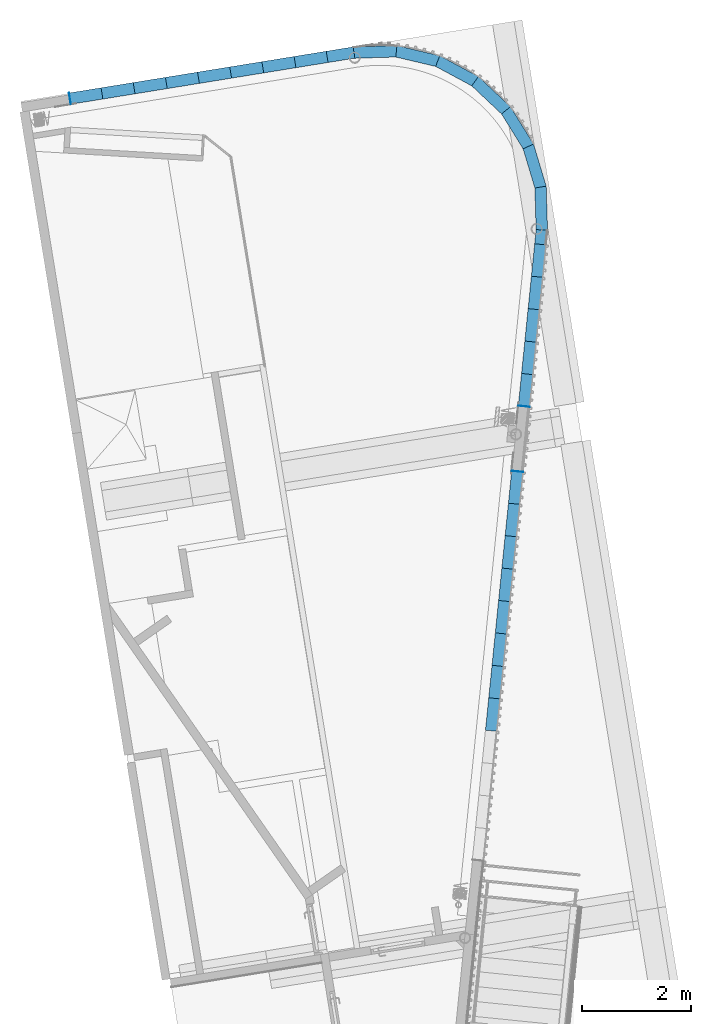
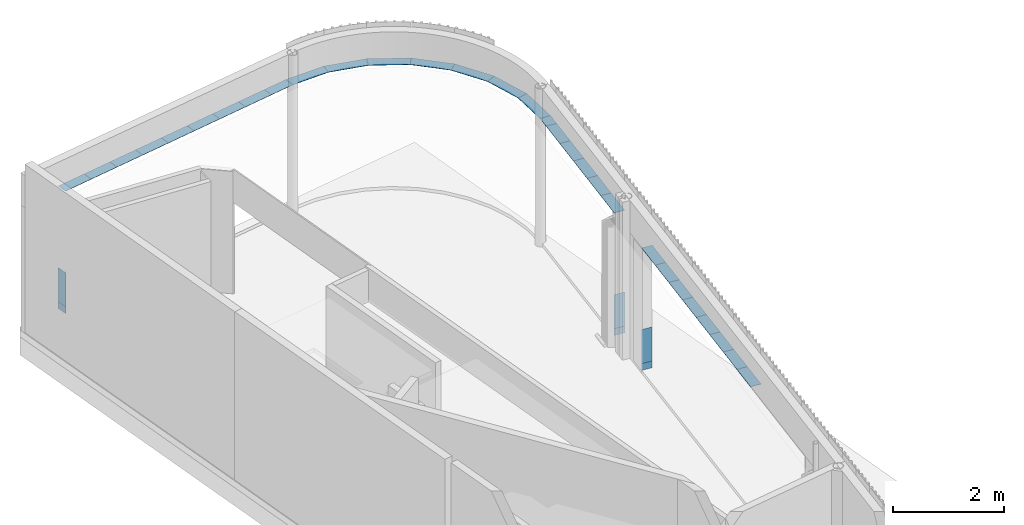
# One storey, part 5 of 23: 36 members, 3 elements without a shape of their own.
"""IFC2X3 building model written with IfcOpenShell, lengths in millimetres."""

from ifc_helpers import new_model, entity, si_unit, converted_unit, derived_unit, direction, frame, frame_2d, origin, origin_with_axes, origin_2d_with_axis, place, context, subcontext, project, spatial, polyline, rectangle, outline, extrude, source, transform, mapped, material, type_object, element, aggregate, save


model = new_model("IFC2X3")

# Units and contexts
plan_context = context("Plan", 3, precision=1e-05, world=origin_with_axes())
model_context = context("Model", 3, precision=0.01, world=origin(), true_north=direction((6.12323399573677e-17, 1.0)))
body_context = subcontext(model_context, "Body", "Model", "MODEL_VIEW")
ifc_project = project(units=[converted_unit("PLANEANGLEUNIT", "DEGREE", entity("IfcPositiveLengthMeasure", 0.0174532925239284), si_unit("PLANEANGLEUNIT", "RADIAN"), dimensions=[0, 0, 0, 0, 0, 0, 0]), si_unit("AREAUNIT", "SQUARE_METRE"), si_unit("LENGTHUNIT", "METRE", prefix="MILLI"), si_unit("MASSUNIT", "GRAM", prefix="KILO"), si_unit("POWERUNIT", "WATT"), si_unit("PRESSUREUNIT", "PASCAL", prefix="KILO"), si_unit("FORCEUNIT", "NEWTON", prefix="KILO"), si_unit("ELECTRICVOLTAGEUNIT", "VOLT"), si_unit("ELECTRICCURRENTUNIT", "AMPERE"), si_unit("THERMODYNAMICTEMPERATUREUNIT", "DEGREE_CELSIUS"), si_unit("TIMEUNIT", "SECOND"), si_unit("VOLUMEUNIT", "CUBIC_METRE"), derived_unit("LINEARVELOCITYUNIT", [(si_unit("LENGTHUNIT", "METRE"), 1), (si_unit("TIMEUNIT", "SECOND"), -1)]), derived_unit("VOLUMETRICFLOWRATEUNIT", [(si_unit("VOLUMEUNIT", "CUBIC_METRE"), 1), (si_unit("TIMEUNIT", "SECOND"), -1)]), derived_unit("THERMALTRANSMITTANCEUNIT", [(si_unit("POWERUNIT", "WATT"), 1), (si_unit("THERMODYNAMICTEMPERATUREUNIT", "KELVIN"), -1), (si_unit("AREAUNIT", "SQUARE_METRE"), -1)]), derived_unit("SOUNDPRESSUREUNIT", [(si_unit("PRESSUREUNIT", "PASCAL"), 1)])], contexts=[model_context, plan_context])

# Site, building, storey
site_placement = place(None, frame((-0.00071070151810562, 0.00438415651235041, 0.0), z_axis=(0.0, 0.0, 1.0), x_axis=(-0.160236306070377, 0.987078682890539, 0.0)))
site = spatial("IfcSite", under=ifc_project, at=site_placement, Name="Default", CompositionType="ELEMENT")
building_placement = place(site_placement, origin_with_axes())
building = spatial("IfcBuilding", under=site, at=building_placement, Name="TOO", CompositionType="ELEMENT")
storey_placement = place(building_placement, frame((0.0, 0.0, 58999.9999999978), z_axis=(0.0, 0.0, 1.0), x_axis=(1.0, 0.0, 0.0)))
storey = spatial("IfcBuildingStorey", under=building, at=storey_placement, Name="Nivå F", CompositionType="ELEMENT", Elevation=58999.9999999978)

# Curtain wall, members
curtain_wall_type = type_object("IfcCurtainWallType", Name="Curtain Wall:Curtain Wall Standard (Bruk kun denne)", PredefinedType="NOTDEFINED")
curtain_wall_1_placement = place(storey_placement, frame((0.0, 0.0, -58999.9999999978), z_axis=(0.0, 0.0, 1.0), x_axis=(1.0, 0.0, 0.0)))
curtain_wall_1 = element("IfcCurtainWall", 1, at=curtain_wall_1_placement, inside=storey, type_object=curtain_wall_type, Name="Curtain Wall:Curtain Wall Standard (Bruk kun denne)", ObjectType="Curtain Wall:Curtain Wall Standard (Bruk kun denne)")
ifc_material = material(Name="A200 - Metall - Stål")
member_type_1 = type_object("IfcMemberType", Name="Rectangular Mullion:A248-M03 kantbeskyt. åpning 210 hovedpav -venstre", PredefinedType="MULLION", material=ifc_material)
shared_shape_1 = source(origin(), body_context, "Body", "SweptSolid", [
    extrude(rectangle(XDim=5.0, YDim=210.0, at=origin_2d_with_axis()), frame((2.5, 95.0, -750.0), z_axis=(0.0, 0.0, 1.0), x_axis=(-1.0, 0.0, 0.0)), (0.0, 0.0, 1.0), 750.000000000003),
])
member_1_placement = place(curtain_wall_1_placement, frame((787388.155021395, -501802.480498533, 59149.9999999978), z_axis=(0.0, 0.0, -1.0), x_axis=(0.0, -1.0, 0.0)))
member_1 = element("IfcMember", 2, at=member_1_placement, type_object=member_type_1, material=ifc_material, Name="Rectangular Mullion:A248-M03 kantbeskyt. åpning 210 hovedpav -venstre", ObjectType="Rectangular Mullion:A248-M03 kantbeskyt. åpning 210 hovedpav -venstre", context=body_context, shape_type="MappedRepresentation", body=[
    mapped(shared_shape_1, transform((0.0, 0.0, 0.0), scale=1.0)),
])
member_type_2 = type_object("IfcMemberType", Name="Rectangular Mullion:A248-M03 kantbeskyt. åpning 210 hovedpav -venstre", PredefinedType="MULLION", material=ifc_material)
shared_shape_2 = source(origin(), body_context, "Body", "SweptSolid", [
    extrude(rectangle(XDim=5.0, YDim=210.0, at=frame_2d((0.0, -1.4210854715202e-14), x_axis=(1.0, 0.0))), frame((2.5, 95.0, -150.0), z_axis=(0.0, 0.0, 1.0), x_axis=(-1.0, 0.0, 0.0)), (0.0, 0.0, 1.0), 150.000000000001),
])
member_2_placement = place(curtain_wall_1_placement, frame((787388.155021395, -501802.480498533, 58999.9999999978), z_axis=(0.0, 0.0, -1.0), x_axis=(0.0, -1.0, 0.0)))
member_2 = element("IfcMember", 3, at=member_2_placement, type_object=member_type_2, material=ifc_material, Name="Rectangular Mullion:A248-M03 kantbeskyt. åpning 210 hovedpav -venstre", ObjectType="Rectangular Mullion:A248-M03 kantbeskyt. åpning 210 hovedpav -venstre", context=body_context, shape_type="MappedRepresentation", body=[
    mapped(shared_shape_2, transform((0.0, 0.0, 0.0), scale=1.0)),
])
member_type_3 = type_object("IfcMemberType", Name="Rectangular Mullion:A248-M03 kantbeskyt. åpning 210 hovedpav", PredefinedType="MULLION", material=ifc_material)
shared_shape_3 = source(origin(), body_context, "Body", "SweptSolid", [
    extrude(rectangle(XDim=5.0, YDim=210.0, at=origin_2d_with_axis()), frame((0.0, 95.0, -595.0), z_axis=(0.0, 0.0, 1.0), x_axis=(-1.0, 0.0, 0.0)), (0.0, 0.0, 1.0), 594.999999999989),
])
member_3_placement = place(curtain_wall_1_placement, frame((787388.155021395, -502402.480498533, 61699.9999999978), z_axis=(0.0, -1.0, 0.0), x_axis=(0.0, 0.0, 1.0)))
member_3 = element("IfcMember", 4, at=member_3_placement, type_object=member_type_3, material=ifc_material, Name="Rectangular Mullion:A248-M03 kantbeskyt. åpning 210 hovedpav", ObjectType="Rectangular Mullion:A248-M03 kantbeskyt. åpning 210 hovedpav", context=body_context, shape_type="MappedRepresentation", body=[
    mapped(shared_shape_3, transform((0.0, 0.0, 0.0), scale=1.0)),
])
member_type_4 = type_object("IfcMemberType", Name="Rectangular Mullion:A248-M03 kantbeskyt. åpning 210 hovedpav", PredefinedType="MULLION", material=ifc_material)
shared_shape_4 = source(origin(), body_context, "Body", "SweptSolid", [
    extrude(rectangle(XDim=5.0, YDim=210.0, at=origin_2d_with_axis()), frame((0.0, 95.0, -600.0), z_axis=(0.0, 0.0, 1.0), x_axis=(-1.0, 0.0, 0.0)), (0.0, 0.0, 1.0), 600.000000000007),
])
member_4_placement = place(curtain_wall_1_placement, frame((787388.155021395, -503002.480498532, 61699.9999999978), z_axis=(0.0, -1.0, 0.0), x_axis=(0.0, 0.0, 1.0)))
member_4 = element("IfcMember", 5, at=member_4_placement, type_object=member_type_4, material=ifc_material, Name="Rectangular Mullion:A248-M03 kantbeskyt. åpning 210 hovedpav", ObjectType="Rectangular Mullion:A248-M03 kantbeskyt. åpning 210 hovedpav", context=body_context, shape_type="MappedRepresentation", body=[
    mapped(shared_shape_4, transform((0.0, 0.0, 0.0), scale=1.0)),
])
member_5_placement = place(curtain_wall_1_placement, frame((787388.155021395, -503602.480498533, 61699.9999999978), z_axis=(0.0, -1.0, 0.0), x_axis=(0.0, 0.0, 1.0)))
member_5 = element("IfcMember", 6, at=member_5_placement, type_object=member_type_4, material=ifc_material, Name="Rectangular Mullion:A248-M03 kantbeskyt. åpning 210 hovedpav", ObjectType="Rectangular Mullion:A248-M03 kantbeskyt. åpning 210 hovedpav", context=body_context, shape_type="MappedRepresentation", body=[
    mapped(shared_shape_4, transform((0.0, 0.0, 0.0), scale=1.0)),
])
member_6_placement = place(curtain_wall_1_placement, frame((787388.155021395, -504202.480498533, 61699.9999999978), z_axis=(0.0, -1.0, 0.0), x_axis=(0.0, 0.0, 1.0)))
member_6 = element("IfcMember", 7, at=member_6_placement, type_object=member_type_4, material=ifc_material, Name="Rectangular Mullion:A248-M03 kantbeskyt. åpning 210 hovedpav", ObjectType="Rectangular Mullion:A248-M03 kantbeskyt. åpning 210 hovedpav", context=body_context, shape_type="MappedRepresentation", body=[
    mapped(shared_shape_4, transform((0.0, 0.0, 0.0), scale=1.0)),
])
member_7_placement = place(curtain_wall_1_placement, frame((787388.155021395, -505402.480498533, 61699.9999999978), z_axis=(0.0, -1.0, 0.0), x_axis=(0.0, 0.0, 1.0)))
member_7 = element("IfcMember", 8, at=member_7_placement, type_object=member_type_4, material=ifc_material, Name="Rectangular Mullion:A248-M03 kantbeskyt. åpning 210 hovedpav", ObjectType="Rectangular Mullion:A248-M03 kantbeskyt. åpning 210 hovedpav", context=body_context, shape_type="MappedRepresentation", body=[
    mapped(shared_shape_4, transform((0.0, 0.0, 0.0), scale=1.0)),
])
member_8_placement = place(curtain_wall_1_placement, frame((787388.155021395, -506602.480498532, 61699.9999999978), z_axis=(0.0, -1.0, 0.0), x_axis=(0.0, 0.0, 1.0)))
member_8 = element("IfcMember", 9, at=member_8_placement, type_object=member_type_4, material=ifc_material, Name="Rectangular Mullion:A248-M03 kantbeskyt. åpning 210 hovedpav", ObjectType="Rectangular Mullion:A248-M03 kantbeskyt. åpning 210 hovedpav", context=body_context, shape_type="MappedRepresentation", body=[
    mapped(shared_shape_4, transform((0.0, 0.0, 0.0), scale=1.0)),
])
member_9_placement = place(curtain_wall_1_placement, frame((787388.155021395, -504802.480498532, 61699.9999999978), z_axis=(0.0, -1.0, 0.0), x_axis=(0.0, 0.0, 1.0)))
member_9 = element("IfcMember", 10, at=member_9_placement, type_object=member_type_4, material=ifc_material, Name="Rectangular Mullion:A248-M03 kantbeskyt. åpning 210 hovedpav", ObjectType="Rectangular Mullion:A248-M03 kantbeskyt. åpning 210 hovedpav", context=body_context, shape_type="MappedRepresentation", body=[
    mapped(shared_shape_4, transform((0.0, 0.0, 0.0), scale=1.0)),
])
member_10_placement = place(curtain_wall_1_placement, frame((787388.155021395, -506002.480498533, 61699.9999999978), z_axis=(0.0, -1.0, 0.0), x_axis=(0.0, 0.0, 1.0)))
member_10 = element("IfcMember", 11, at=member_10_placement, type_object=member_type_4, material=ifc_material, Name="Rectangular Mullion:A248-M03 kantbeskyt. åpning 210 hovedpav", ObjectType="Rectangular Mullion:A248-M03 kantbeskyt. åpning 210 hovedpav", context=body_context, shape_type="MappedRepresentation", body=[
    mapped(shared_shape_4, transform((0.0, 0.0, 0.0), scale=1.0)),
])
member_type_5 = type_object("IfcMemberType", Name="Rectangular Mullion:A248-M03 kantbeskyt. åpning 210 hovedpav", PredefinedType="MULLION", material=ifc_material)
shared_shape_5 = source(origin(), body_context, "Body", "SweptSolid", [
    extrude(rectangle(XDim=5.0, YDim=210.0, at=origin_2d_with_axis()), frame((0.0, 95.0, -499.999950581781), z_axis=(0.0, 0.0, 1.0), x_axis=(-1.0, 0.0, 0.0)), (0.0, 0.0, 1.0), 499.999950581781),
])
member_11_placement = place(curtain_wall_1_placement, frame((787388.155021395, -507102.480449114, 61699.9999999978), z_axis=(0.0, -1.0, 0.0), x_axis=(0.0, 0.0, 1.0)))
member_11 = element("IfcMember", 12, at=member_11_placement, type_object=member_type_5, material=ifc_material, Name="Rectangular Mullion:A248-M03 kantbeskyt. åpning 210 hovedpav", ObjectType="Rectangular Mullion:A248-M03 kantbeskyt. åpning 210 hovedpav", context=body_context, shape_type="MappedRepresentation", body=[
    mapped(shared_shape_5, transform((0.0, 0.0, 0.0), scale=1.0)),
])
aggregate(curtain_wall_1, [member_1, member_2, member_3, member_4, member_5, member_6, member_7, member_8, member_11, member_9, member_10])

curtain_wall_2_placement = place(storey_placement, frame((0.0, 0.0, -58999.9999999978), z_axis=(0.0, 0.0, 1.0), x_axis=(1.0, 0.0, 0.0)))
curtain_wall_2 = element("IfcCurtainWall", 13, at=curtain_wall_2_placement, inside=storey, type_object=curtain_wall_type, Name="Curtain Wall:Curtain Wall Standard (Bruk kun denne)", ObjectType="Curtain Wall:Curtain Wall Standard (Bruk kun denne)")
member_type_6 = type_object("IfcMemberType", Name="Rectangular Mullion:A248-M03 buet kantbeskyt. åpning 210 hovedpav", PredefinedType="MULLION", material=ifc_material)
shared_shape_6 = source(origin(), body_context, "Body", "SweptSolid", [
    extrude(outline(polyline([(-404.642458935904, -105.0), (404.642458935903, -105.0), (376.995434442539, 105.0), (-376.995434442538, 105.0), (-404.642458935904, -105.0)])), frame((-2.5, 95.0, -403.325933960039), z_axis=(1.0, 0.0, 0.0), x_axis=(0.0, 0.0, -1.0)), (0.0, 0.0, 1.0), 5.0),
])
member_12_placement = place(curtain_wall_2_placement, frame((786973.638141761, -508646.295602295, 61699.9999999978), z_axis=(-0.382683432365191, -0.923879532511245, 0.0), x_axis=(0.0, 0.0, 1.0)))
member_12 = element("IfcMember", 14, at=member_12_placement, type_object=member_type_6, material=ifc_material, Name="Rectangular Mullion:A248-M03 buet kantbeskyt. åpning 210 hovedpav", ObjectType="Rectangular Mullion:A248-M03 buet kantbeskyt. åpning 210 hovedpav", context=body_context, shape_type="MappedRepresentation", body=[
    mapped(shared_shape_6, transform((0.0, 0.0, 0.0), scale=1.0)),
])
member_13_placement = place(curtain_wall_2_placement, frame((785097.370493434, -510086.006405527, 61699.9999999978), z_axis=(-0.92387953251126, -0.382683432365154, 0.0), x_axis=(0.0, 0.0, 1.0)))
member_13 = element("IfcMember", 15, at=member_13_placement, type_object=member_type_6, material=ifc_material, Name="Rectangular Mullion:A248-M03 buet kantbeskyt. åpning 210 hovedpav", ObjectType="Rectangular Mullion:A248-M03 buet kantbeskyt. åpning 210 hovedpav", context=body_context, shape_type="MappedRepresentation", body=[
    mapped(shared_shape_6, transform((0.0, 0.0, 0.0), scale=1.0)),
])
member_14_placement = place(curtain_wall_2_placement, frame((785842.619644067, -509777.314099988, 61699.9999999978), z_axis=(-0.793353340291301, -0.608761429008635, 0.0), x_axis=(0.0, 0.0, 1.0)))
member_14 = element("IfcMember", 16, at=member_14_placement, type_object=member_type_6, material=ifc_material, Name="Rectangular Mullion:A248-M03 buet kantbeskyt. åpning 210 hovedpav", ObjectType="Rectangular Mullion:A248-M03 buet kantbeskyt. åpning 210 hovedpav", context=body_context, shape_type="MappedRepresentation", body=[
    mapped(shared_shape_6, transform((0.0, 0.0, 0.0), scale=1.0)),
])
member_15_placement = place(curtain_wall_2_placement, frame((786482.579597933, -509286.255556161, 61699.9999999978), z_axis=(-0.608761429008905, -0.793353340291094, 0.0), x_axis=(0.0, 0.0, 1.0)))
member_15 = element("IfcMember", 17, at=member_15_placement, type_object=member_type_6, material=ifc_material, Name="Rectangular Mullion:A248-M03 buet kantbeskyt. åpning 210 hovedpav", ObjectType="Rectangular Mullion:A248-M03 buet kantbeskyt. åpning 210 hovedpav", context=body_context, shape_type="MappedRepresentation", body=[
    mapped(shared_shape_6, transform((0.0, 0.0, 0.0), scale=1.0)),
])
member_type_7 = type_object("IfcMemberType", Name="Rectangular Mullion:A248-M03 buet kantbeskyt. åpning 210 hovedpav", PredefinedType="MULLION", material=ifc_material)
shared_shape_7 = source(origin(), body_context, "Body", "SweptSolid", [
    extrude(outline(polyline([(-410.895952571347, -105.0), (397.072440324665, -105.0), (397.072440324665, 105.0), (-383.248928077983, 105.0), (-410.895952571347, -105.0)])), frame((-2.5, 95.0, -409.579427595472), z_axis=(1.0, 0.0, 0.0), x_axis=(0.0, 0.0, -1.0)), (0.0, 0.0, 1.0), 5.0),
])
member_16_placement = place(curtain_wall_2_placement, frame((787282.3304473, -507901.046451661, 61699.9999999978), z_axis=(-0.130526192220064, -0.991444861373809, 0.0), x_axis=(0.0, 0.0, 1.0)))
member_16 = element("IfcMember", 18, at=member_16_placement, type_object=member_type_7, material=ifc_material, Name="Rectangular Mullion:A248-M03 buet kantbeskyt. åpning 210 hovedpav", ObjectType="Rectangular Mullion:A248-M03 buet kantbeskyt. åpning 210 hovedpav", context=body_context, shape_type="MappedRepresentation", body=[
    mapped(shared_shape_7, transform((0.0, 0.0, 0.0), scale=1.0)),
])
member_type_8 = type_object("IfcMemberType", Name="Rectangular Mullion:A248-M03 buet kantbeskyt. åpning 210 hovedpav", PredefinedType="MULLION", material=ifc_material)
shared_shape_8 = source(origin(), body_context, "Body", "SweptSolid", [
    extrude(outline(polyline([(-404.642458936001, -105.0), (404.642458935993, -105.0), (376.995434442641, 105.0), (-376.995434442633, 105.0), (-404.642458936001, -105.0)])), frame((-2.5, 95.0, -403.325933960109), z_axis=(1.0, 0.0, 0.0), x_axis=(0.0, 0.0, -1.0)), (0.0, 0.0, 1.0), 5.0),
])
member_17_placement = place(curtain_wall_2_placement, frame((784297.619644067, -510191.295602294, 61699.9999999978), z_axis=(-0.991444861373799, -0.130526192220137, 0.0), x_axis=(0.0, 0.0, 1.0)))
member_17 = element("IfcMember", 19, at=member_17_placement, type_object=member_type_8, material=ifc_material, Name="Rectangular Mullion:A248-M03 buet kantbeskyt. åpning 210 hovedpav", ObjectType="Rectangular Mullion:A248-M03 buet kantbeskyt. åpning 210 hovedpav", context=body_context, shape_type="MappedRepresentation", body=[
    mapped(shared_shape_8, transform((0.0, 0.0, 0.0), scale=1.0)),
])
member_type_9 = type_object("IfcMemberType", Name="Rectangular Mullion:A248-M03 buet kantbeskyt. åpning 210 hovedpav", PredefinedType="MULLION", material=ifc_material)
shared_shape_9 = source(origin(), body_context, "Body", "SweptSolid", [
    extrude(outline(polyline([(-400.841189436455, -105.0), (407.782638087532, -105.0), (380.135613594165, 105.0), (-387.077062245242, 105.0), (-400.841189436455, -105.0)])), frame((-2.5, 95.0, -400.185754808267), z_axis=(1.0, 0.0, 0.0), x_axis=(0.0, 0.0, -1.0)), (0.0, 0.0, 1.0), 5.0),
])
member_18_placement = place(curtain_wall_2_placement, frame((783497.8687947, -510086.006405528, 61699.9999999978), z_axis=(-0.991444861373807, 0.130526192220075, 0.0), x_axis=(0.0, 0.0, 1.0)))
member_18 = element("IfcMember", 20, at=member_18_placement, type_object=member_type_9, material=ifc_material, Name="Rectangular Mullion:A248-M03 buet kantbeskyt. åpning 210 hovedpav", ObjectType="Rectangular Mullion:A248-M03 buet kantbeskyt. åpning 210 hovedpav", context=body_context, shape_type="MappedRepresentation", body=[
    mapped(shared_shape_9, transform((0.0, 0.0, 0.0), scale=1.0)),
])
aggregate(curtain_wall_2, [member_12, member_13, member_14, member_16, member_17, member_15, member_18])

curtain_wall_3_placement = place(storey_placement, frame((0.0, 0.0, -58999.9999999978), z_axis=(0.0, 0.0, 1.0), x_axis=(1.0, 0.0, 0.0)))
curtain_wall_3 = element("IfcCurtainWall", 21, at=curtain_wall_3_placement, inside=storey, type_object=curtain_wall_type, Name="Curtain Wall:Curtain Wall Standard (Bruk kun denne)", ObjectType="Curtain Wall:Curtain Wall Standard (Bruk kun denne)")
member_type_10 = type_object("IfcMemberType", Name="Rectangular Mullion:A248-M03 kantbeskyt. åpning 210 hovedpav -venstre", PredefinedType="MULLION", material=ifc_material)
shared_shape_10 = source(origin(), body_context, "Body", "SweptSolid", [
    extrude(rectangle(XDim=5.0, YDim=210.0, at=origin_2d_with_axis()), frame((2.5, -95.0, -150.0), z_axis=(0.0, 0.0, 1.0), x_axis=(-1.0, 0.0, 0.0)), (0.0, 0.0, 1.0), 150.000000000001),
])
member_19_placement = place(curtain_wall_3_placement, frame((780335.489948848, -509238.64954762, 58999.9999999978), z_axis=(0.0, 0.0, -1.0), x_axis=(0.965925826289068, -0.258819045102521, 0.0)))
member_19 = element("IfcMember", 22, at=member_19_placement, type_object=member_type_10, material=ifc_material, Name="Rectangular Mullion:A248-M03 kantbeskyt. åpning 210 hovedpav -venstre", ObjectType="Rectangular Mullion:A248-M03 kantbeskyt. åpning 210 hovedpav -venstre", context=body_context, shape_type="MappedRepresentation", body=[
    mapped(shared_shape_10, transform((0.0, 0.0, 0.0), scale=1.0)),
])
member_type_11 = type_object("IfcMemberType", Name="Rectangular Mullion:A248-M03 kantbeskyt. åpning 210 hovedpav -venstre", PredefinedType="MULLION", material=ifc_material)
shared_shape_11 = source(origin(), body_context, "Body", "SweptSolid", [
    extrude(rectangle(XDim=5.0, YDim=210.0, at=origin_2d_with_axis()), frame((2.5, -95.0, -750.0), z_axis=(0.0, 0.0, 1.0), x_axis=(-1.0, 0.0, 0.0)), (0.0, 0.0, 1.0), 750.000000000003),
])
member_20_placement = place(curtain_wall_3_placement, frame((780335.489948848, -509238.64954762, 59149.9999999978), z_axis=(0.0, 0.0, -1.0), x_axis=(0.965925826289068, -0.258819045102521, 0.0)))
member_20 = element("IfcMember", 23, at=member_20_placement, type_object=member_type_11, material=ifc_material, Name="Rectangular Mullion:A248-M03 kantbeskyt. åpning 210 hovedpav -venstre", ObjectType="Rectangular Mullion:A248-M03 kantbeskyt. åpning 210 hovedpav -venstre", context=body_context, shape_type="MappedRepresentation", body=[
    mapped(shared_shape_11, transform((0.0, 0.0, 0.0), scale=1.0)),
])
member_type_12 = type_object("IfcMemberType", Name="Rectangular Mullion:A248-M03 kantbeskyt. åpning 210 hovedpav -høyre", PredefinedType="MULLION", material=ifc_material)
shared_shape_12 = source(origin(), body_context, "Body", "SweptSolid", [
    extrude(rectangle(XDim=5.0, YDim=210.0, at=origin_2d_with_axis()), frame((-2.5, -95.0, -750.0), z_axis=(0.0, 0.0, 1.0), x_axis=(-1.0, 0.0, 0.0)), (0.0, 0.0, 1.0), 750.000000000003),
])
member_21_placement = place(curtain_wall_3_placement, frame((779176.378957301, -508928.066693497, 59149.9999999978), z_axis=(0.0, 0.0, -1.0), x_axis=(0.965925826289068, -0.258819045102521, 0.0)))
member_21 = element("IfcMember", 24, at=member_21_placement, type_object=member_type_12, material=ifc_material, Name="Rectangular Mullion:A248-M03 kantbeskyt. åpning 210 hovedpav -høyre", ObjectType="Rectangular Mullion:A248-M03 kantbeskyt. åpning 210 hovedpav -høyre", context=body_context, shape_type="MappedRepresentation", body=[
    mapped(shared_shape_12, transform((0.0, 0.0, 0.0), scale=1.0)),
])
member_type_13 = type_object("IfcMemberType", Name="Rectangular Mullion:A248-M03 kantbeskyt. åpning 210 hovedpav -høyre", PredefinedType="MULLION", material=ifc_material)
shared_shape_13 = source(origin(), body_context, "Body", "SweptSolid", [
    extrude(rectangle(XDim=5.0, YDim=210.0, at=origin_2d_with_axis()), frame((-2.5, -95.0, -150.0), z_axis=(0.0, 0.0, 1.0), x_axis=(-1.0, 0.0, 0.0)), (0.0, 0.0, 1.0), 150.000000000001),
])
member_22_placement = place(curtain_wall_3_placement, frame((779176.378957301, -508928.066693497, 58999.9999999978), z_axis=(0.0, 0.0, -1.0), x_axis=(0.965925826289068, -0.258819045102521, 0.0)))
member_22 = element("IfcMember", 25, at=member_22_placement, type_object=member_type_13, material=ifc_material, Name="Rectangular Mullion:A248-M03 kantbeskyt. åpning 210 hovedpav -høyre", ObjectType="Rectangular Mullion:A248-M03 kantbeskyt. åpning 210 hovedpav -høyre", context=body_context, shape_type="MappedRepresentation", body=[
    mapped(shared_shape_13, transform((0.0, 0.0, 0.0), scale=1.0)),
])
member_type_14 = type_object("IfcMemberType", Name="Rectangular Mullion:A248-M03 kantbeskyt. åpning 210 hovedpav", PredefinedType="MULLION", material=ifc_material)
shared_shape_14 = source(origin(), body_context, "Body", "SweptSolid", [
    extrude(rectangle(XDim=5.0, YDim=210.0, at=origin_2d_with_axis()), frame((0.0, -95.0, -600.0), z_axis=(0.0, 0.0, 1.0), x_axis=(-1.0, 0.0, 0.0)), (0.0, 0.0, 1.0), 600.000000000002),
])
member_23_placement = place(curtain_wall_3_placement, frame((783233.267427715, -510015.106682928, 61699.9999999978), z_axis=(0.965925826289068, -0.258819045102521, 0.0), x_axis=(0.0, 0.0, 1.0)))
member_23 = element("IfcMember", 26, at=member_23_placement, type_object=member_type_14, material=ifc_material, Name="Rectangular Mullion:A248-M03 kantbeskyt. åpning 210 hovedpav", ObjectType="Rectangular Mullion:A248-M03 kantbeskyt. åpning 210 hovedpav", context=body_context, shape_type="MappedRepresentation", body=[
    mapped(shared_shape_14, transform((0.0, 0.0, 0.0), scale=1.0)),
])
member_24_placement = place(curtain_wall_3_placement, frame((782074.156436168, -509704.523828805, 61699.9999999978), z_axis=(0.965925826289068, -0.258819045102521, 0.0), x_axis=(0.0, 0.0, 1.0)))
member_24 = element("IfcMember", 27, at=member_24_placement, type_object=member_type_14, material=ifc_material, Name="Rectangular Mullion:A248-M03 kantbeskyt. åpning 210 hovedpav", ObjectType="Rectangular Mullion:A248-M03 kantbeskyt. åpning 210 hovedpav", context=body_context, shape_type="MappedRepresentation", body=[
    mapped(shared_shape_14, transform((0.0, 0.0, 0.0), scale=1.0)),
])
member_25_placement = place(curtain_wall_3_placement, frame((781494.600940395, -509549.232401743, 61699.9999999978), z_axis=(0.965925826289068, -0.258819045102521, 0.0), x_axis=(0.0, 0.0, 1.0)))
member_25 = element("IfcMember", 28, at=member_25_placement, type_object=member_type_14, material=ifc_material, Name="Rectangular Mullion:A248-M03 kantbeskyt. åpning 210 hovedpav", ObjectType="Rectangular Mullion:A248-M03 kantbeskyt. åpning 210 hovedpav", context=body_context, shape_type="MappedRepresentation", body=[
    mapped(shared_shape_14, transform((0.0, 0.0, 0.0), scale=1.0)),
])
member_26_placement = place(curtain_wall_3_placement, frame((778017.267965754, -508617.483839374, 61699.9999999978), z_axis=(0.965925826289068, -0.258819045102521, 0.0), x_axis=(0.0, 0.0, 1.0)))
member_26 = element("IfcMember", 29, at=member_26_placement, type_object=member_type_14, material=ifc_material, Name="Rectangular Mullion:A248-M03 kantbeskyt. åpning 210 hovedpav", ObjectType="Rectangular Mullion:A248-M03 kantbeskyt. åpning 210 hovedpav", context=body_context, shape_type="MappedRepresentation", body=[
    mapped(shared_shape_14, transform((0.0, 0.0, 0.0), scale=1.0)),
])
member_27_placement = place(curtain_wall_3_placement, frame((776858.156974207, -508306.900985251, 61699.9999999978), z_axis=(0.965925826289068, -0.258819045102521, 0.0), x_axis=(0.0, 0.0, 1.0)))
member_27 = element("IfcMember", 30, at=member_27_placement, type_object=member_type_14, material=ifc_material, Name="Rectangular Mullion:A248-M03 kantbeskyt. åpning 210 hovedpav", ObjectType="Rectangular Mullion:A248-M03 kantbeskyt. åpning 210 hovedpav", context=body_context, shape_type="MappedRepresentation", body=[
    mapped(shared_shape_14, transform((0.0, 0.0, 0.0), scale=1.0)),
])
member_28_placement = place(curtain_wall_3_placement, frame((776278.601478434, -508151.60955819, 61699.9999999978), z_axis=(0.965925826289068, -0.258819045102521, 0.0), x_axis=(0.0, 0.0, 1.0)))
member_28 = element("IfcMember", 31, at=member_28_placement, type_object=member_type_14, material=ifc_material, Name="Rectangular Mullion:A248-M03 kantbeskyt. åpning 210 hovedpav", ObjectType="Rectangular Mullion:A248-M03 kantbeskyt. åpning 210 hovedpav", context=body_context, shape_type="MappedRepresentation", body=[
    mapped(shared_shape_14, transform((0.0, 0.0, 0.0), scale=1.0)),
])
member_29_placement = place(curtain_wall_3_placement, frame((775119.490486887, -507841.026704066, 61699.9999999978), z_axis=(0.965925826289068, -0.258819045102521, 0.0), x_axis=(0.0, 0.0, 1.0)))
member_29 = element("IfcMember", 32, at=member_29_placement, type_object=member_type_14, material=ifc_material, Name="Rectangular Mullion:A248-M03 kantbeskyt. åpning 210 hovedpav", ObjectType="Rectangular Mullion:A248-M03 kantbeskyt. åpning 210 hovedpav", context=body_context, shape_type="MappedRepresentation", body=[
    mapped(shared_shape_14, transform((0.0, 0.0, 0.0), scale=1.0)),
])
member_30_placement = place(curtain_wall_3_placement, frame((778596.823461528, -508772.775266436, 61699.9999999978), z_axis=(0.965925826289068, -0.258819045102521, 0.0), x_axis=(0.0, 0.0, 1.0)))
member_30 = element("IfcMember", 33, at=member_30_placement, type_object=member_type_14, material=ifc_material, Name="Rectangular Mullion:A248-M03 kantbeskyt. åpning 210 hovedpav", ObjectType="Rectangular Mullion:A248-M03 kantbeskyt. åpning 210 hovedpav", context=body_context, shape_type="MappedRepresentation", body=[
    mapped(shared_shape_14, transform((0.0, 0.0, 0.0), scale=1.0)),
])
member_31_placement = place(curtain_wall_3_placement, frame((777437.712469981, -508462.192412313, 61699.9999999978), z_axis=(0.965925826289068, -0.258819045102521, 0.0), x_axis=(0.0, 0.0, 1.0)))
member_31 = element("IfcMember", 34, at=member_31_placement, type_object=member_type_14, material=ifc_material, Name="Rectangular Mullion:A248-M03 kantbeskyt. åpning 210 hovedpav", ObjectType="Rectangular Mullion:A248-M03 kantbeskyt. åpning 210 hovedpav", context=body_context, shape_type="MappedRepresentation", body=[
    mapped(shared_shape_14, transform((0.0, 0.0, 0.0), scale=1.0)),
])
member_32_placement = place(curtain_wall_3_placement, frame((775699.04598266, -507996.318131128, 61699.9999999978), z_axis=(0.965925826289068, -0.258819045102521, 0.0), x_axis=(0.0, 0.0, 1.0)))
member_32 = element("IfcMember", 35, at=member_32_placement, type_object=member_type_14, material=ifc_material, Name="Rectangular Mullion:A248-M03 kantbeskyt. åpning 210 hovedpav", ObjectType="Rectangular Mullion:A248-M03 kantbeskyt. åpning 210 hovedpav", context=body_context, shape_type="MappedRepresentation", body=[
    mapped(shared_shape_14, transform((0.0, 0.0, 0.0), scale=1.0)),
])
member_33_placement = place(curtain_wall_3_placement, frame((782653.711931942, -509859.815255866, 61699.9999999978), z_axis=(0.965925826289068, -0.258819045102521, 0.0), x_axis=(0.0, 0.0, 1.0)))
member_33 = element("IfcMember", 36, at=member_33_placement, type_object=member_type_14, material=ifc_material, Name="Rectangular Mullion:A248-M03 kantbeskyt. åpning 210 hovedpav", ObjectType="Rectangular Mullion:A248-M03 kantbeskyt. åpning 210 hovedpav", context=body_context, shape_type="MappedRepresentation", body=[
    mapped(shared_shape_14, transform((0.0, 0.0, 0.0), scale=1.0)),
])
member_type_15 = type_object("IfcMemberType", Name="Rectangular Mullion:A248-M03 kantbeskyt. åpning 210 hovedpav", PredefinedType="MULLION", material=ifc_material)
shared_shape_15 = source(origin(), body_context, "Body", "SweptSolid", [
    extrude(rectangle(XDim=5.0, YDim=210.0, at=origin_2d_with_axis()), frame((0.0, -95.0, -595.0), z_axis=(0.0, 0.0, 1.0), x_axis=(-1.0, 0.0, 0.0)), (0.0, 0.0, 1.0), 595.000000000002),
])
member_34_placement = place(curtain_wall_3_placement, frame((780915.045444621, -509393.940974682, 61699.9999999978), z_axis=(0.965925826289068, -0.258819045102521, 0.0), x_axis=(0.0, 0.0, 1.0)))
member_34 = element("IfcMember", 37, at=member_34_placement, type_object=member_type_15, material=ifc_material, Name="Rectangular Mullion:A248-M03 kantbeskyt. åpning 210 hovedpav", ObjectType="Rectangular Mullion:A248-M03 kantbeskyt. åpning 210 hovedpav", context=body_context, shape_type="MappedRepresentation", body=[
    mapped(shared_shape_15, transform((0.0, 0.0, 0.0), scale=1.0)),
])
member_type_16 = type_object("IfcMemberType", Name="Rectangular Mullion:A248-M03 kantbeskyt. åpning 210 hovedpav", PredefinedType="MULLION", material=ifc_material)
member_35_placement = place(curtain_wall_3_placement, frame((779171.54932817, -508926.772598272, 61699.9999999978), z_axis=(0.965925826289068, -0.258819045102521, 0.0), x_axis=(0.0, 0.0, 1.0)))
member_35 = element("IfcMember", 38, at=member_35_placement, type_object=member_type_16, material=ifc_material, Name="Rectangular Mullion:A248-M03 kantbeskyt. åpning 210 hovedpav", ObjectType="Rectangular Mullion:A248-M03 kantbeskyt. åpning 210 hovedpav", context=body_context, shape_type="MappedRepresentation", body=[
    mapped(shared_shape_15, transform((0.0, 0.0, 0.0), scale=1.0)),
])
member_type_17 = type_object("IfcMemberType", Name="Rectangular Mullion:A248-M03 kantbeskyt. åpning 210 hovedpav", PredefinedType="MULLION", material=ifc_material)
shared_shape_16 = source(origin(), body_context, "Body", "SweptSolid", [
    extrude(outline(polyline([(-126.972368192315, -105.0), (133.854431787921, -105.0), (133.854431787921, 105.0), (-140.736495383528, 105.0), (-126.972368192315, -105.0)])), frame((-2.5, -95.0, -140.081060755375), z_axis=(1.0, 0.0, 0.0), x_axis=(0.0, 0.0, -1.0)), (0.0, 0.0, 1.0), 5.0),
])
member_36_placement = place(curtain_wall_3_placement, frame((783497.8687947, -510086.006405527, 61699.9999999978), z_axis=(0.965925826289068, -0.258819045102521, 0.0), x_axis=(0.0, 0.0, 1.0)))
member_36 = element("IfcMember", 39, at=member_36_placement, type_object=member_type_17, material=ifc_material, Name="Rectangular Mullion:A248-M03 kantbeskyt. åpning 210 hovedpav", ObjectType="Rectangular Mullion:A248-M03 kantbeskyt. åpning 210 hovedpav", context=body_context, shape_type="MappedRepresentation", body=[
    mapped(shared_shape_16, transform((0.0, 0.0, 0.0), scale=1.0)),
])
aggregate(curtain_wall_3, [member_19, member_20, member_21, member_22, member_23, member_24, member_25, member_34, member_35, member_26, member_27, member_28, member_29, member_36, member_30, member_31, member_32, member_33])

save(model, "model.ifc")
